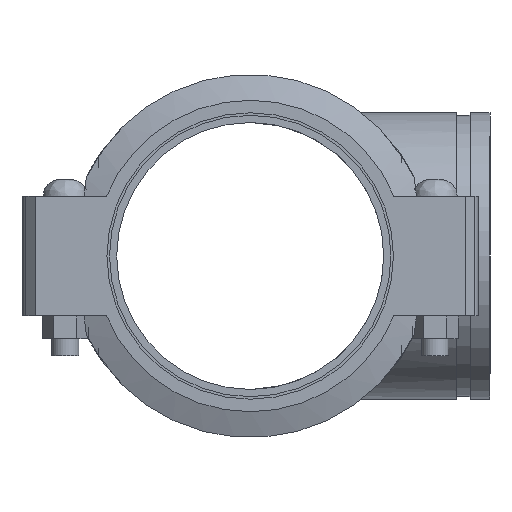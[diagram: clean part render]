
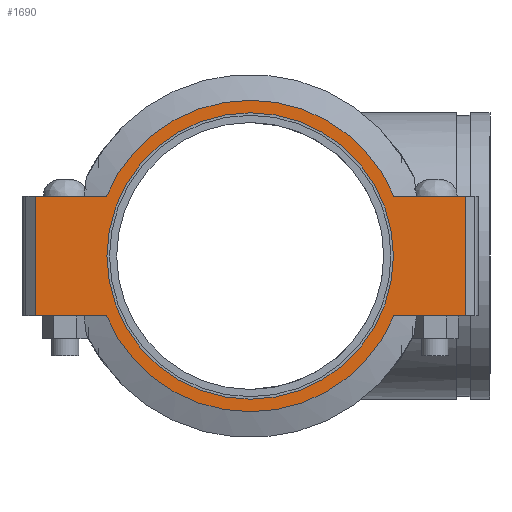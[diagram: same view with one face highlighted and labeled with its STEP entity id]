
A CAD part, left-side view. The second image highlights one B-rep face of the part: STEP entity #1690.
In plain terms, the highlighted planar face has unit normal (-1, 0, 0) as drawn and (0, 0, -1) by its records, which use the part's own axes.
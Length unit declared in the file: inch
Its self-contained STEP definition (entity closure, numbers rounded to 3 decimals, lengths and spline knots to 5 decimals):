
#96=FACE_BOUND('',#349,.T.);
#145=PLANE('',#1994);
#226=FACE_OUTER_BOUND('',#348,.T.);
#348=EDGE_LOOP('',(#1419,#1420,#1421,#1422,#1423,#1424,#1425,#1426));
#349=EDGE_LOOP('',(#1427));
#428=LINE('',#2928,#521);
#437=LINE('',#2955,#530);
#441=LINE('',#2977,#534);
#443=LINE('',#2981,#536);
#450=LINE('',#3007,#543);
#453=LINE('',#3025,#546);
#521=VECTOR('',#2396,0.3937);
#530=VECTOR('',#2421,0.3937);
#534=VECTOR('',#2435,0.3937);
#536=VECTOR('',#2439,0.3937);
#543=VECTOR('',#2458,0.3937);
#546=VECTOR('',#2471,0.3937);
#643=CIRCLE('',#1990,5.375);
#645=CIRCLE('',#1995,5.845);
#646=CIRCLE('',#1996,5.845);
#772=VERTEX_POINT('',#2923);
#773=VERTEX_POINT('',#2927);
#782=VERTEX_POINT('',#2952);
#783=VERTEX_POINT('',#2954);
#790=VERTEX_POINT('',#2976);
#791=VERTEX_POINT('',#2980);
#798=VERTEX_POINT('',#3005);
#799=VERTEX_POINT('',#3011);
#802=VERTEX_POINT('',#3021);
#970=EDGE_CURVE('',#773,#772,#428,.T.);
#983=EDGE_CURVE('',#783,#782,#437,.T.);
#992=EDGE_CURVE('',#773,#790,#441,.T.);
#994=EDGE_CURVE('',#791,#790,#443,.T.);
#1006=EDGE_CURVE('',#798,#782,#450,.T.);
#1008=EDGE_CURVE('',#799,#799,#643,.T.);
#1013=EDGE_CURVE('',#798,#802,#453,.T.);
#1017=EDGE_CURVE('',#772,#783,#645,.T.);
#1018=EDGE_CURVE('',#802,#791,#646,.T.);
#1419=ORIENTED_EDGE('',*,*,#992,.F.);
#1420=ORIENTED_EDGE('',*,*,#970,.T.);
#1421=ORIENTED_EDGE('',*,*,#1017,.T.);
#1422=ORIENTED_EDGE('',*,*,#983,.T.);
#1423=ORIENTED_EDGE('',*,*,#1006,.F.);
#1424=ORIENTED_EDGE('',*,*,#1013,.T.);
#1425=ORIENTED_EDGE('',*,*,#1018,.T.);
#1426=ORIENTED_EDGE('',*,*,#994,.T.);
#1427=ORIENTED_EDGE('',*,*,#1008,.T.);
#1690=ADVANCED_FACE('',(#226,#96),#145,.F.);
#1990=AXIS2_PLACEMENT_3D('',#3012,#2464,#2465);
#1994=AXIS2_PLACEMENT_3D('',#3071,#2474,#2475);
#1995=AXIS2_PLACEMENT_3D('',#3072,#2476,#2477);
#1996=AXIS2_PLACEMENT_3D('',#3073,#2478,#2479);
#2396=DIRECTION('',(-1.,0.,0.));
#2421=DIRECTION('',(-1.,0.,0.));
#2435=DIRECTION('',(0.,1.,0.));
#2439=DIRECTION('',(1.,0.,0.));
#2458=DIRECTION('',(0.,-1.,0.));
#2464=DIRECTION('center_axis',(0.,0.,1.));
#2465=DIRECTION('ref_axis',(1.,0.,0.));
#2471=DIRECTION('',(1.,0.,0.));
#2474=DIRECTION('center_axis',(0.,0.,1.));
#2475=DIRECTION('ref_axis',(-1.,0.,0.));
#2476=DIRECTION('center_axis',(0.,0.,-1.));
#2477=DIRECTION('ref_axis',(1.,0.,0.));
#2478=DIRECTION('center_axis',(0.,0.,-1.));
#2479=DIRECTION('ref_axis',(1.,0.,0.));
#2923=CARTESIAN_POINT('',(5.39458,-2.25,-1.315));
#2927=CARTESIAN_POINT('',(8.065,-2.25,-1.315));
#2928=CARTESIAN_POINT('',(-8.565,-2.25,-1.315));
#2952=CARTESIAN_POINT('',(-8.065,-2.25,-1.315));
#2954=CARTESIAN_POINT('',(-5.39458,-2.25,-1.315));
#2955=CARTESIAN_POINT('',(-8.565,-2.25,-1.315));
#2976=CARTESIAN_POINT('',(8.065,2.25,-1.315));
#2977=CARTESIAN_POINT('',(8.065,-1.125,-1.315));
#2980=CARTESIAN_POINT('',(5.39458,2.25,-1.315));
#2981=CARTESIAN_POINT('',(8.565,2.25,-1.315));
#3005=CARTESIAN_POINT('',(-8.065,2.25,-1.315));
#3007=CARTESIAN_POINT('',(-8.065,1.125,-1.315));
#3011=CARTESIAN_POINT('',(-5.375,0.,-1.315));
#3012=CARTESIAN_POINT('Origin',(0.,0.,-1.315));
#3021=CARTESIAN_POINT('',(-5.39458,2.25,-1.315));
#3025=CARTESIAN_POINT('',(8.565,2.25,-1.315));
#3071=CARTESIAN_POINT('Origin',(0.,0.,
-1.315));
#3072=CARTESIAN_POINT('Origin',(0.,0.,-1.315));
#3073=CARTESIAN_POINT('Origin',(0.,0.,-1.315));
